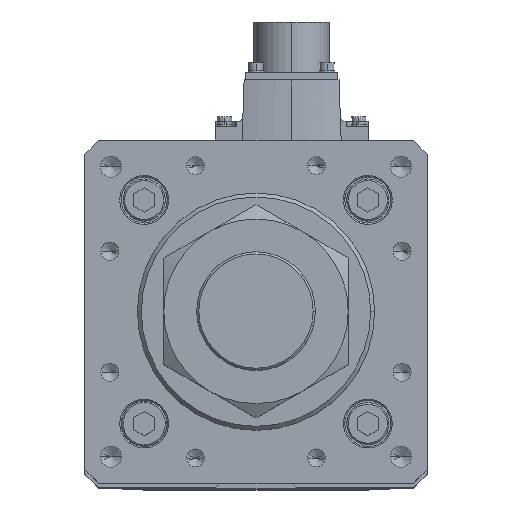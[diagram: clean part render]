
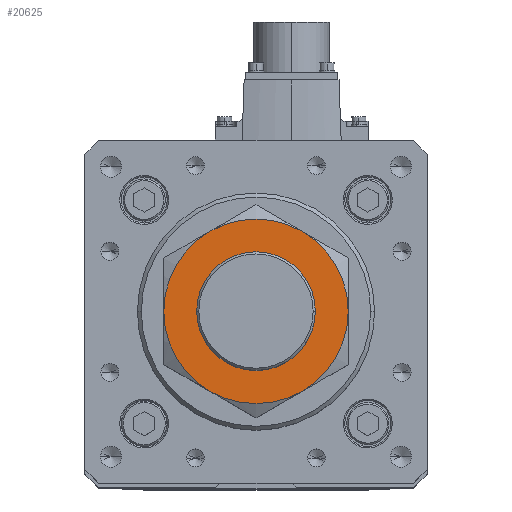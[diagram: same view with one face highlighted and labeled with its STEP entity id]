
A CAD part, top view. The second image highlights one B-rep face of the part: STEP entity #20625.
In plain terms, the highlighted planar face has unit normal (0, 0, 1).
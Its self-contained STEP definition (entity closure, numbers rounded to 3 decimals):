
#298 = EDGE_CURVE ( 'NONE', #19983, #7848, #829, .T. ) ;
#829 = CIRCLE ( 'NONE', #17387, 35. ) ;
#1087 = DIRECTION ( 'NONE',  ( 0., 0., -1. ) ) ;
#1139 = CARTESIAN_POINT ( 'NONE',  ( 17.5, 30.311, 27. ) ) ;
#1396 = AXIS2_PLACEMENT_3D ( 'NONE', #22589, #7637, #22215 ) ;
#1398 = DIRECTION ( 'NONE',  ( -1., 0., 0. ) ) ;
#1500 = CARTESIAN_POINT ( 'NONE',  ( -35., 0., 27. ) ) ;
#1877 = DIRECTION ( 'NONE',  ( 0., 0., -1. ) ) ;
#2193 = VERTEX_POINT ( 'NONE', #4349 ) ;
#2939 = DIRECTION ( 'NONE',  ( 0., 0., -1. ) ) ;
#3539 = CARTESIAN_POINT ( 'NONE',  ( -17.5, -30.311, 27. ) ) ;
#4112 = DIRECTION ( 'NONE',  ( 0., 0., -1. ) ) ;
#4349 = CARTESIAN_POINT ( 'NONE',  ( -22.5, 0., 27. ) ) ;
#4367 = ORIENTED_EDGE ( 'NONE', *, *, #33892, .F. ) ;
#4809 = VERTEX_POINT ( 'NONE', #37898 ) ;
#4931 = ORIENTED_EDGE ( 'NONE', *, *, #35947, .F. ) ;
#5944 = AXIS2_PLACEMENT_3D ( 'NONE', #26251, #14732, #17562 ) ;
#6877 = AXIS2_PLACEMENT_3D ( 'NONE', #16065, #4112, #1398 ) ;
#6884 = DIRECTION ( 'NONE',  ( -1., 0., 0. ) ) ;
#6980 = ORIENTED_EDGE ( 'NONE', *, *, #298, .F. ) ;
#7637 = DIRECTION ( 'NONE',  ( 0., 0., -1. ) ) ;
#7848 = VERTEX_POINT ( 'NONE', #33175 ) ;
#9326 = CARTESIAN_POINT ( 'NONE',  ( 17.5, -30.311, 27. ) ) ;
#9952 = CARTESIAN_POINT ( 'NONE',  ( 0., 0., 27. ) ) ;
#10646 = CARTESIAN_POINT ( 'NONE',  ( 0., 0., 27. ) ) ;
#10723 = CARTESIAN_POINT ( 'NONE',  ( 0., 0., 27. ) ) ;
#10838 = VERTEX_POINT ( 'NONE', #9326 ) ;
#11075 = EDGE_CURVE ( 'NONE', #4809, #10838, #32181, .T. ) ;
#11128 = AXIS2_PLACEMENT_3D ( 'NONE', #10723, #16141, #25088 ) ;
#11240 = CIRCLE ( 'NONE', #33809, 35. ) ;
#12392 = EDGE_CURVE ( 'NONE', #7848, #35589, #31565, .T. ) ;
#12546 = EDGE_CURVE ( 'NONE', #33785, #19983, #11240, .T. ) ;
#12888 = ORIENTED_EDGE ( 'NONE', *, *, #26857, .F. ) ;
#13300 = AXIS2_PLACEMENT_3D ( 'NONE', #24887, #16069, #21770 ) ;
#13743 = CIRCLE ( 'NONE', #26830, 22.5 ) ;
#14732 = DIRECTION ( 'NONE',  ( 0., 0., -1. ) ) ;
#15437 = CARTESIAN_POINT ( 'NONE',  ( 0., 0., 27. ) ) ;
#16065 = CARTESIAN_POINT ( 'NONE',  ( 0., 0., 27. ) ) ;
#16069 = DIRECTION ( 'NONE',  ( 0., 0., 1. ) ) ;
#16141 = DIRECTION ( 'NONE',  ( 0., 0., 1. ) ) ;
#16233 = EDGE_CURVE ( 'NONE', #2193, #26277, #27483, .T. ) ;
#17387 = AXIS2_PLACEMENT_3D ( 'NONE', #20581, #2939, #29264 ) ;
#17562 = DIRECTION ( 'NONE',  ( -1., 0., 0. ) ) ;
#18154 = DIRECTION ( 'NONE',  ( 0., 0., 1. ) ) ;
#18403 = DIRECTION ( 'NONE',  ( 1., 0., 0. ) ) ;
#19630 = ORIENTED_EDGE ( 'NONE', *, *, #12392, .F. ) ;
#19654 = DIRECTION ( 'NONE',  ( -1., 0., 0. ) ) ;
#19836 = ORIENTED_EDGE ( 'NONE', *, *, #12546, .F. ) ;
#19983 = VERTEX_POINT ( 'NONE', #1500 ) ;
#20581 = CARTESIAN_POINT ( 'NONE',  ( 0., 0., 27. ) ) ;
#20625 = ADVANCED_FACE ( 'NONE', ( #37868, #30008 ), #34014, .T. ) ;
#21382 = CIRCLE ( 'NONE', #5944, 35. ) ;
#21770 = DIRECTION ( 'NONE',  ( 1., 0., 0. ) ) ;
#22215 = DIRECTION ( 'NONE',  ( -1., 0., 0. ) ) ;
#22287 = CIRCLE ( 'NONE', #36806, 35. ) ;
#22419 = ORIENTED_EDGE ( 'NONE', *, *, #16233, .F. ) ;
#22589 = CARTESIAN_POINT ( 'NONE',  ( 0., 0., 27. ) ) ;
#24285 = CARTESIAN_POINT ( 'NONE',  ( 22.5, 0., 27. ) ) ;
#24887 = CARTESIAN_POINT ( 'NONE',  ( 0., 0., 27. ) ) ;
#25088 = DIRECTION ( 'NONE',  ( 1., 0., 0. ) ) ;
#25594 = ORIENTED_EDGE ( 'NONE', *, *, #11075, .F. ) ;
#26251 = CARTESIAN_POINT ( 'NONE',  ( 0., 0., 27. ) ) ;
#26277 = VERTEX_POINT ( 'NONE', #24285 ) ;
#26830 = AXIS2_PLACEMENT_3D ( 'NONE', #15437, #18154, #18403 ) ;
#26857 = EDGE_CURVE ( 'NONE', #26277, #2193, #13743, .T. ) ;
#27483 = CIRCLE ( 'NONE', #11128, 22.5 ) ;
#29150 = EDGE_LOOP ( 'NONE', ( #25594, #4931, #19630, #6980, #19836, #4367 ) ) ;
#29264 = DIRECTION ( 'NONE',  ( -1., 0., 0. ) ) ;
#30008 = FACE_BOUND ( 'NONE', #33536, .T. ) ;
#31565 = CIRCLE ( 'NONE', #6877, 35. ) ;
#32181 = CIRCLE ( 'NONE', #1396, 35. ) ;
#33175 = CARTESIAN_POINT ( 'NONE',  ( -17.5, 30.311, 27. ) ) ;
#33536 = EDGE_LOOP ( 'NONE', ( #22419, #12888 ) ) ;
#33785 = VERTEX_POINT ( 'NONE', #3539 ) ;
#33809 = AXIS2_PLACEMENT_3D ( 'NONE', #10646, #1877, #19654 ) ;
#33892 = EDGE_CURVE ( 'NONE', #10838, #33785, #22287, .T. ) ;
#34014 = PLANE ( 'NONE',  #13300 ) ;
#35589 = VERTEX_POINT ( 'NONE', #1139 ) ;
#35947 = EDGE_CURVE ( 'NONE', #35589, #4809, #21382, .T. ) ;
#36806 = AXIS2_PLACEMENT_3D ( 'NONE', #9952, #1087, #6884 ) ;
#37868 = FACE_OUTER_BOUND ( 'NONE', #29150, .T. ) ;
#37898 = CARTESIAN_POINT ( 'NONE',  ( 35., 0., 27. ) ) ;
